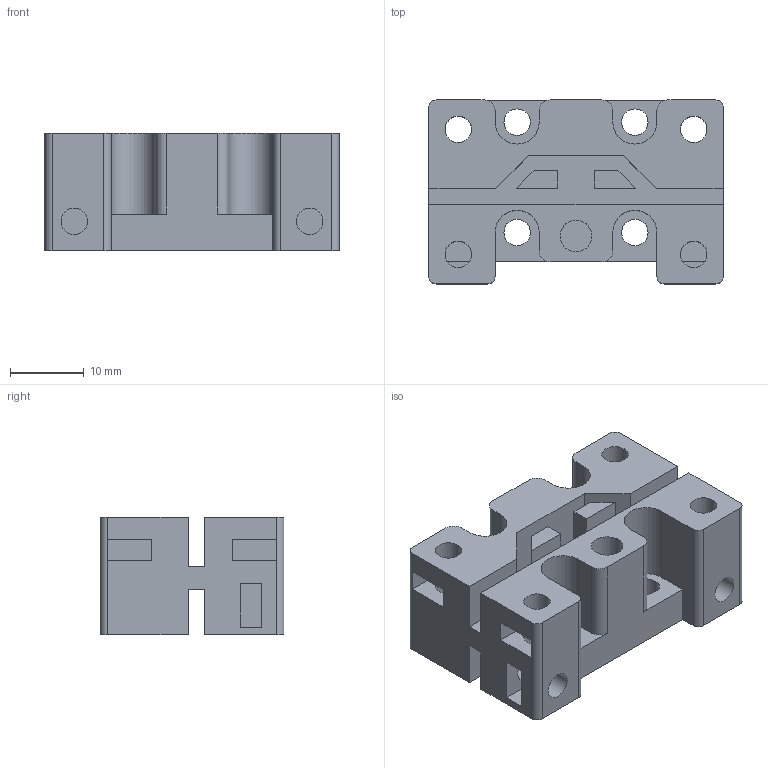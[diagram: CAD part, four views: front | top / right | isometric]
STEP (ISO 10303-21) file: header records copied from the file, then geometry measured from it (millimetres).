
FILE_DESCRIPTION(('Open CASCADE Model'),'2;1');
FILE_NAME('Open CASCADE Shape Model','2026-10-26T02:40:39',('Author'),( 'Open CASCADE'),'Open CASCADE STEP processor 7.9','build123d', 'Unknown');
FILE_SCHEMA(('AUTOMOTIVE_DESIGN { 1 0 10303 214 1 1 1 1 }'));
Length unit declared in the file: millimetre
Products named in the file (1): COMPOUND
Bounding box: 40 x 25 x 16 mm (x, y, z)
Volume: 9803.2 mm3; surface area: 7350.5 mm2
Topology: 1 solids, 1 shells, 124 faces, 321 edges, 214 vertices
Faces by surface type: plane 91, cylinder 33
Full cylindrical faces by diameter (mm): 3.6 x16, 4.3 x1
Entity records: 8083 total; most frequent: CARTESIAN_POINT 1518, DIRECTION 1228, LINE 813, VECTOR 813, ORIENTED_EDGE 642, PCURVE 642, DEFINITIONAL_REPRESENTATION 642, EDGE_CURVE 321
